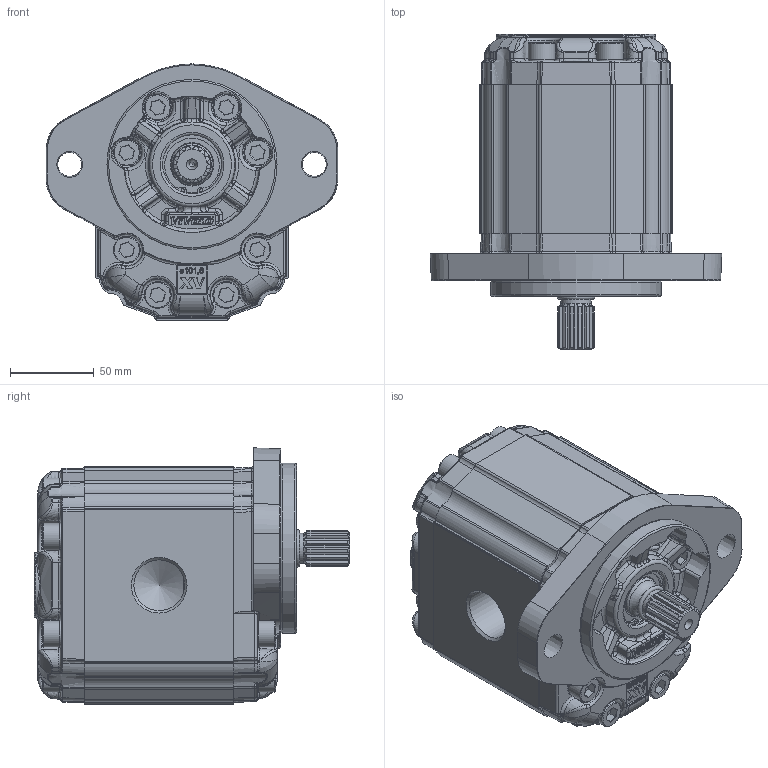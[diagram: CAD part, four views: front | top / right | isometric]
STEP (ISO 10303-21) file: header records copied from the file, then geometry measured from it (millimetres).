
FILE_DESCRIPTION( ( 'Unknown' ), '1' );
FILE_NAME( 'P:/montaggio_easy/output/STP/X3U7932IEEA.stp', 'Unknown', ( 'Unknown' ), ( 'Unknown' ), 'PSStep 14.0', 'Unknown', ' ' );
FILE_SCHEMA( ( 'AUTOMOTIVE_DESIGN { 1 0 10303 214 1 1 1 1 }' ) );
Length unit declared in the file: millimetre
Products named in the file (5): Assem1; X3U32; 3I; X3EEH89; XU331-A
Bounding box: 174 x 188.2 x 153 mm (x, y, z)
Volume: 4224416.8 mm3; surface area: 409074.5 mm2
Topology: 8 solids, 42 shells, 6082 faces, 15736 edges, 9932 vertices
Faces by surface type: bspline 2478, plane 1742, cylinder 1292, torus 194, cone 184, extrusion 104, revolution 54, sphere 32, offset 2
Full cylindrical faces by diameter (mm): 2 x4, 10 x32, 15.8 x32, 16 x32, 18 x4, 24.98 x2, 25.5 x2, 26.8 x2, 29.425 x2, 30.291 x4, 31.42 x2, 33.304 x2, 34.7 x2, 35 x4, 35.2 x2, 37 x2, 101.6 x2
Entity records: 170190 total; most frequent: CARTESIAN_POINT 87658, ORIENTED_EDGE 15280, EDGE_CURVE 7640, DIRECTION 6721, VERTEX_POINT 4901, B_SPLINE_CURVE_WITH_KNOTS 4526, EDGE_LOOP 3310, FACE_OUTER_BOUND 3142
